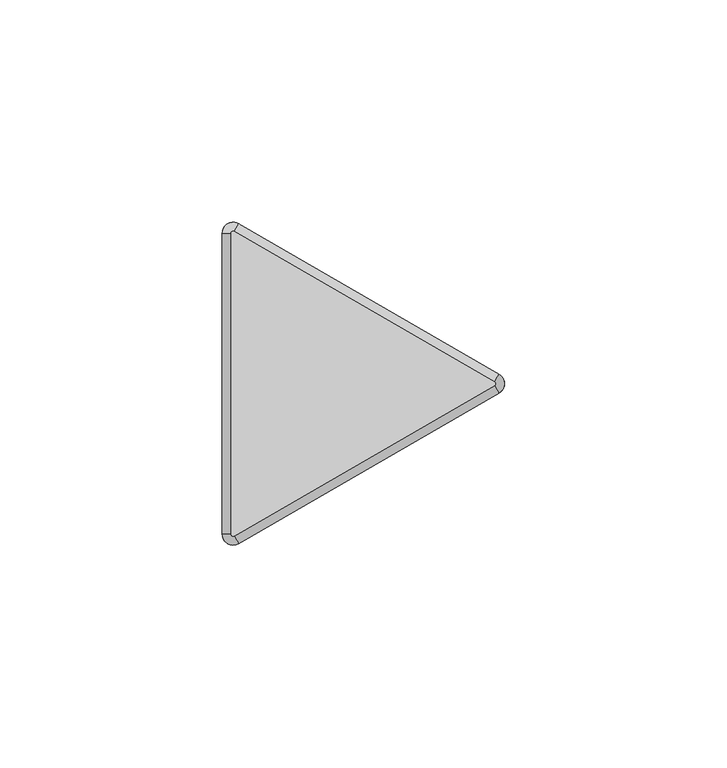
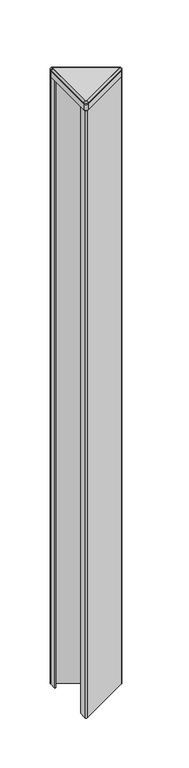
"""IFC4 building model written with IfcOpenShell, lengths in millimetres: furniture geometry, Steelcase - Answer Solution - Panel - 120deg Change-of-Height Trim - Thin : Y Corner - 30H for 72H App."""

import ifcopenshell
import ifcopenshell.guid

model = None  # the IFC model being written
_history = None  # IfcOwnerHistory: only IFC2X3 demands one
_inside = {}  # id of a spatial element -> (the spatial element, [elements in it])
_under = {}  # id of a project, library or spatial element -> (it, [spatial elements below it])
_declared = {}  # id of a project -> (the project, [libraries it declares])
_typed = {}  # id of a type object -> (the type object, [elements of that type])
_made_of = {}  # id of a material, layer set ... -> (it, [elements and type objects made of it])


def new_model(schema):
    """Start an empty IFC model of exactly this schema.

    Asked for "IFC4X3", IfcOpenShell would pick the latest addendum, in which some entities
    have other attributes; the version numbers below select the first issue.
    IFC2X3 requires an IfcOwnerHistory on every rooted entity: one is made here for all.
    """
    global model, _history
    if schema == "IFC4X3":
        model = ifcopenshell.file(schema_version=(4, 3, 0, 0))
    else:
        model = ifcopenshell.file(schema=schema)
    _inside.clear()
    _under.clear()
    _declared.clear()
    _typed.clear()
    _made_of.clear()
    _history = None
    if model.schema == "IFC2X3":
        org = make("IfcOrganization", Name="unknown")
        user = make(
            "IfcPersonAndOrganization",
            ThePerson=make("IfcPerson", FamilyName="unknown"),
            TheOrganization=org,
        )
        app = make(
            "IfcApplication",
            ApplicationDeveloper=org,
            Version="unknown",
            ApplicationFullName="unknown",
            ApplicationIdentifier="unknown",
        )
        _history = make(
            "IfcOwnerHistory",
            OwningUser=user,
            OwningApplication=app,
            ChangeAction="ADDED",
            CreationDate=0,
        )
    return model


def make(cls, **values):
    """One entity of the class cls with the attributes given. An attribute that is None is left unset."""
    return model.create_entity(
        cls, **{name: value for name, value in values.items() if value is not None}
    )


def rooted(cls, **values):
    """An entity with a GlobalId (a new one), such as an element, a storey or a relation."""
    return make(cls, GlobalId=ifcopenshell.guid.new(), OwnerHistory=_history, **values)


def si_unit(unit_type, name, prefix=None):
    """IfcSIUnit, for example si_unit("LENGTHUNIT", "METRE", prefix="MILLI")."""
    return make("IfcSIUnit", UnitType=unit_type, Prefix=prefix, Name=name)


def assignment(units):
    """IfcUnitAssignment: the units of a project."""
    return None if units is None else make("IfcUnitAssignment", Units=units)


def point(xyz):
    """IfcCartesianPoint."""
    return None if xyz is None else make("IfcCartesianPoint", Coordinates=xyz)


def direction(xyz):
    """IfcDirection."""
    return None if xyz is None else make("IfcDirection", DirectionRatios=xyz)


def frame(location, z_axis=None, x_axis=None):
    """IfcAxis2Placement3D, a coordinate frame: its origin and axes. An axis left out is left unset."""
    return make(
        "IfcAxis2Placement3D",
        Location=point(location),
        Axis=direction(z_axis),
        RefDirection=direction(x_axis),
    )


def frame_2d(location, x_axis=None):
    """IfcAxis2Placement2D, a coordinate frame in the plane: its origin and x axis."""
    return make(
        "IfcAxis2Placement2D", Location=point(location), RefDirection=direction(x_axis)
    )


def origin():
    """The frame at (0, 0, 0) with its axes left unset."""
    return frame((0.0, 0.0, 0.0))


def place(relative_to, where):
    """IfcLocalPlacement: puts the frame where relative to a parent placement (None: the world)."""
    return make(
        "IfcLocalPlacement", PlacementRelTo=relative_to, RelativePlacement=where
    )


def context(
    kind, dimensions, precision=None, world=None, true_north=None, identifier=None
):
    """IfcGeometricRepresentationContext, for example the 3D "Model" context."""
    return make(
        "IfcGeometricRepresentationContext",
        ContextIdentifier=identifier,
        ContextType=kind,
        CoordinateSpaceDimension=dimensions,
        Precision=precision,
        WorldCoordinateSystem=world,
        TrueNorth=true_north,
    )


def project(units=None, contexts=None):
    """IfcProject with its units and contexts."""
    return rooted(
        "IfcProject",
        Name="project",
        RepresentationContexts=contexts,
        UnitsInContext=assignment(units),
    )


def spatial(cls, under=None, at=None, **own):
    """A site, building, storey or space (cls), placed at a placement, below another one or the project."""
    s = rooted(cls, ObjectPlacement=at, **own)
    if under is not None:
        _under.setdefault(under.id(), (under, []))[1].append(s)
    return s


def polyline(points):
    """IfcPolyline through the points."""
    return make("IfcPolyline", Points=[point(p) for p in points])


def circle_curve(where, radius):
    """IfcCircle in the frame where."""
    return make("IfcCircle", Position=where, Radius=radius)


def ellipse_curve(where, semi_axis1, semi_axis2):
    """IfcEllipse in the frame where."""
    return make(
        "IfcEllipse", Position=where, SemiAxis1=semi_axis1, SemiAxis2=semi_axis2
    )


def trimmed(basis, trim1, trim2, sense, master):
    """IfcTrimmedCurve: the piece of a basis curve between two trims."""
    return make(
        "IfcTrimmedCurve",
        BasisCurve=basis,
        Trim1=trim1,
        Trim2=trim2,
        SenseAgreement=sense,
        MasterRepresentation=master,
    )


def segment(curve, same_sense, transition):
    """IfcCompositeCurveSegment."""
    return make(
        "IfcCompositeCurveSegment",
        Transition=transition,
        SameSense=same_sense,
        ParentCurve=curve,
    )


def composite_curve(segments, self_intersect=None):
    """IfcCompositeCurve: segments joined end to end."""
    return make("IfcCompositeCurve", Segments=segments, SelfIntersect=self_intersect)


def outline(outer, holes=None, kind="AREA"):
    """IfcArbitraryClosedProfileDef: a profile drawn as a closed curve; with holes, ...WithVoids."""
    if holes is None:
        return make("IfcArbitraryClosedProfileDef", ProfileType=kind, OuterCurve=outer)
    return make(
        "IfcArbitraryProfileDefWithVoids",
        ProfileType=kind,
        OuterCurve=outer,
        InnerCurves=holes,
    )


def extrude(swept, where, along, depth):
    """IfcExtrudedAreaSolid: the profile swept, set in the frame where, extruded along a direction by depth."""
    return make(
        "IfcExtrudedAreaSolid",
        SweptArea=swept,
        Position=where,
        ExtrudedDirection=direction(along),
        Depth=depth,
    )


def shape(context_of_items, identifier, shape_type, items):
    """IfcShapeRepresentation: the items that make up one representation, for example the "Body"."""
    return make(
        "IfcShapeRepresentation",
        ContextOfItems=context_of_items,
        RepresentationIdentifier=identifier,
        RepresentationType=shape_type,
        Items=items,
    )


def source(mapping_origin, context_of_items, identifier, shape_type, items):
    """IfcRepresentationMap: a shape defined once, which mapped items show again and again."""
    return make(
        "IfcRepresentationMap",
        MappingOrigin=mapping_origin,
        MappedRepresentation=shape(context_of_items, identifier, shape_type, items),
    )


def transform(
    local_origin,
    x_axis=None,
    y_axis=None,
    z_axis=None,
    scale=None,
    scale2=None,
    scale3=None,
    uniform=True,
):
    """IfcCartesianTransformationOperator3D, or its non-uniform kind. x_axis, y_axis, z_axis: its Axis1, 2, 3."""
    if uniform:
        return make(
            "IfcCartesianTransformationOperator3D",
            Axis1=direction(x_axis),
            Axis2=direction(y_axis),
            LocalOrigin=point(local_origin),
            Scale=scale,
            Axis3=direction(z_axis),
        )
    return make(
        "IfcCartesianTransformationOperator3DnonUniform",
        Axis1=direction(x_axis),
        Axis2=direction(y_axis),
        LocalOrigin=point(local_origin),
        Scale=scale,
        Axis3=direction(z_axis),
        Scale2=scale2,
        Scale3=scale3,
    )


def mapped(mapping_source, mapping_target):
    """IfcMappedItem: shows the shape of a source again, moved by a transform."""
    return make(
        "IfcMappedItem", MappingSource=mapping_source, MappingTarget=mapping_target
    )


def made_of(thing, what):
    """Note that an element or type object is made of a material, layer set ...; save() writes the relation."""
    if what is not None:
        _made_of.setdefault(what.id(), (what, []))[1].append(thing)
    return thing


def element(
    cls,
    number,
    at=None,
    inside=None,
    cuts=None,
    type_object=None,
    material=None,
    context=None,
    identifier="Body",
    shape_type=None,
    held_by="IfcProductDefinitionShape",
    body=None,
    shapes=None,
    **own,
):
    """One element of the class cls, such as IfcWall. Its Tag is "e" and its number.

    at: its placement. inside: the storey or other place that contains it. cuts: it is an
    opening in that element (IfcRelVoidsElement). A single representation is given by context,
    identifier, shape_type and body (its items); several are given by shapes. held_by: the class
    of the entity that holds the representations. save() writes the other relations.
    """
    e = rooted(cls, Tag="e%d" % number, ObjectPlacement=at, **own)
    if body is not None:
        shapes = [shape(context, identifier, shape_type, body)]
    if shapes is not None:
        e.Representation = make(held_by, Representations=shapes)
    if inside is not None:
        _inside.setdefault(inside.id(), (inside, []))[1].append(e)
    if cuts is not None:
        rooted(
            "IfcRelVoidsElement", RelatingBuildingElement=cuts, RelatedOpeningElement=e
        )
    if type_object is not None:
        _typed.setdefault(type_object.id(), (type_object, []))[1].append(e)
    return made_of(e, material)


def aggregate(whole, parts):
    """IfcRelAggregates: a whole, such as a stair, and the parts it consists of."""
    return rooted("IfcRelAggregates", RelatingObject=whole, RelatedObjects=parts)


def save(model, path):
    """Write the relations noted so far, then the file.

    IfcRelAggregates (storeys below a building ...), IfcRelContainedInSpatialStructure (elements
    in a storey), IfcRelDefinesByType, IfcRelAssociatesMaterial and IfcRelDeclares: one each for
    every whole, place, type object, material and project.
    """
    for whole, parts in _under.values():
        aggregate(whole, parts)
    for where, things in _inside.values():
        rooted(
            "IfcRelContainedInSpatialStructure",
            RelatedElements=things,
            RelatingStructure=where,
        )
    for kind, things in _typed.values():
        rooted("IfcRelDefinesByType", RelatedObjects=things, RelatingType=kind)
    for what, things in _made_of.values():
        rooted("IfcRelAssociatesMaterial", RelatedObjects=things, RelatingMaterial=what)
    for by, libraries in _declared.values():
        rooted("IfcRelDeclares", RelatingContext=by, RelatedDefinitions=libraries)
    model.write(path)


def plane_surface(at):
    """IfcPlane: the flat surface through the origin of the frame at, square to its z axis."""
    return make("IfcPlane", Position=at)


def cylinder_surface(at, radius):
    """IfcCylindricalSurface: all points at the distance radius from the z axis of the frame at."""
    return make("IfcCylindricalSurface", Position=at, Radius=radius)


def revolved_surface(curve, axis_point, axis_direction):
    """IfcSurfaceOfRevolution: the curve turned about the line through axis_point along axis_direction."""
    return make(
        "IfcSurfaceOfRevolution",
        SweptCurve=make("IfcArbitraryOpenProfileDef", ProfileType="CURVE", Curve=curve),
        AxisPosition=make("IfcAxis1Placement", Location=point(axis_point), Axis=direction(axis_direction)),
    )


def advanced_brep(points, edges, surfaces, faces):
    """IfcAdvancedBrep: a solid bounded by faces that lie on surfaces and meet in shared edges.

    An edge is (start, end): straight between two places in points (the first is 0);
    or (start, end, curve); or (start, end, curve, False) where it runs against its curve.
    A face is (place in surfaces, loops), or (place, loops, False) where it looks against
    its surface's normal. A loop lists edges by number (the first is 1), with a minus sign
    where the edge is run from its end to its start. The first loop is the outer one.
    """
    corners = [point(p) for p in points]
    vertices = [make("IfcVertexPoint", VertexGeometry=c) for c in corners]
    made = []
    for start, end, *more in edges:
        made.append(
            make(
                "IfcEdgeCurve",
                EdgeStart=vertices[start],
                EdgeEnd=vertices[end],
                EdgeGeometry=more[0] if more else make("IfcPolyline", Points=[corners[start], corners[end]]),
                SameSense=more[1] if len(more) > 1 else True,
            )
        )
    hull = []
    for where, loops, *sense in faces:
        bounds = []
        for j, loop in enumerate(loops):
            ring = [make("IfcOrientedEdge", EdgeElement=made[abs(k) - 1], Orientation=k > 0) for k in loop]
            bounds.append(
                make(
                    "IfcFaceOuterBound" if j == 0 else "IfcFaceBound",
                    Bound=make("IfcEdgeLoop", EdgeList=ring),
                    Orientation=True,
                )
            )
        hull.append(make("IfcAdvancedFace", Bounds=bounds, FaceSurface=surfaces[where], SameSense=sense[0] if sense else True))
    return make("IfcAdvancedBrep", Outer=make("IfcClosedShell", CfsFaces=hull))


def furniture_a1d1e653(model_context):
    return source(origin(), model_context, "Body", "SolidModel", [
        advanced_brep(
        [(-10.518645, -37.3335529, 1833.2628978), (-14.2052101, -35.2051135, 1833.2628978), (-14.2052101, -35.2051135, 1832.3164663), (-10.518645, -37.3335529, 1832.3164663), (-11.46175, -35.7000471, 1835.15), (-12.319, -35.2051135, 1835.15), (-11.46175, -35.7000471, 1832.3164663), (-12.319, -35.2051135, 1832.3164663), (48.0429908, -3.5229767, 1832.3164663), (48.0429908, -3.5229767, 1833.2628978), (47.0998858, -1.8894709, 1835.15), (47.0998858, -1.8894709, 1832.3164663), (48.0429908, 0.733902, 1833.2628978), (48.0429908, 0.733902, 1832.3164663), (47.0998858, -0.8996038, 1835.15), (47.0998858, -0.8996038, 1832.3164663), (-10.518645, 34.5444782, 1832.3164663), (-14.2052101, 32.4160388, 1832.3164663), (-11.46175, 32.9109723, 1832.3164663), (-12.319, 32.4160388, 1832.3164663), (-10.518645, 34.5444782, 1833.2628978), (-11.46175, 32.9109723, 1835.15), (-14.2052101, 32.4160388, 1833.2628978), (-12.319, 32.4160388, 1835.15)],
        [
            (0, 1, circle_curve(frame((-11.7475, -35.2051135, 1833.2628978), z_axis=(0.0, 0.0, -1.0), x_axis=(-1.0, 0.0, 0.0)), 2.4577101)),
            (1, 2),
            (2, 3, circle_curve(frame((-11.7475, -35.2051135, 1832.3164663), z_axis=(0.0, 0.0, 1.0), x_axis=(-1.0, 0.0, 0.0)), 2.4577101)),
            (3, 0),
            (4, 5, circle_curve(frame((-11.7475, -35.2051135, 1835.15), z_axis=(0.0, 0.0, -1.0), x_axis=(-1.0, 0.0, 0.0)), 0.5715)),
            (5, 1, circle_curve(frame((-12.3181076, -35.2051135, 1833.2628978), z_axis=(0.0, -1.0, 0.0), x_axis=(1.0, 0.0, 0.0)), 1.8871024)),
            (0, 4, circle_curve(frame((-11.4621962, -35.6992743, 1833.2628978), z_axis=(-0.8660254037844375, -0.5000000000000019, 0.0), x_axis=(-0.5000000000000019, 0.8660254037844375, 0.0)), 1.8871024)),
            (6, 7, circle_curve(frame((-11.7475, -35.2051135, 1832.3164663), z_axis=(0.0, 0.0, -1.0), x_axis=(-1.0, 0.0, 0.0)), 0.5715)),
            (7, 5),
            (4, 6),
            (3, 8),
            (8, 9),
            (9, 0),
            (9, 10, circle_curve(frame((47.0994396, -1.8886981, 1833.2628978), z_axis=(-0.8660254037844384, -0.5000000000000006, 0.0), x_axis=(-0.5000000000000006, 0.8660254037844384, 0.0)), 1.8871024)),
            (10, 4),
            (10, 11),
            (11, 6),
            (12, 9, circle_curve(frame((46.8141358, -1.3945374, 1833.2628978), z_axis=(0.0, 0.0, -1.0), x_axis=(0.4999999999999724, -0.8660254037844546, 0.0)), 2.4577101)),
            (8, 13, circle_curve(frame((46.8141358, -1.3945374, 1832.3164663), z_axis=(0.0, 0.0, 1.0), x_axis=(0.4999999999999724, -0.8660254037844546, 0.0)), 2.4577101)),
            (13, 12),
            (14, 10, circle_curve(frame((46.8141358, -1.3945374, 1835.15), z_axis=(0.0, 0.0, -1.0), x_axis=(0.4999999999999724, -0.8660254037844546, 0.0)), 0.5715)),
            (12, 14, circle_curve(frame((47.0994396, -0.9003766, 1833.2628978), z_axis=(0.866025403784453, -0.499999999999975, 0.0), x_axis=(-0.499999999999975, -0.866025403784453, 0.0)), 1.8871024)),
            (15, 11, circle_curve(frame((46.8141358, -1.3945374, 1832.3164663), z_axis=(0.0, 0.0, -1.0), x_axis=(0.4999999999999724, -0.8660254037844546, 0.0)), 0.5715)),
            (14, 15),
            (16, 13),
            (2, 17),
            (17, 16, circle_curve(frame((-11.7475, 32.4160388, 1832.3164663), z_axis=(0.0, 0.0, -1.0), x_axis=(0.500000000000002, 0.8660254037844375, 0.0)), 2.4577101)),
            (15, 18),
            (18, 19, circle_curve(frame((-11.7475, 32.4160388, 1832.3164663), z_axis=(0.0, 0.0, 1.0), x_axis=(0.500000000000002, 0.8660254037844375, 0.0)), 0.5715)),
            (19, 7),
            (16, 20),
            (20, 12),
            (20, 21, circle_curve(frame((-11.4621962, 32.9101995, 1833.2628978), z_axis=(0.8660254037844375, -0.5000000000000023, 0.0), x_axis=(-0.5000000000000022, -0.8660254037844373, 0.0)), 1.8871024)),
            (21, 14),
            (21, 18),
            (22, 20, circle_curve(frame((-11.7475, 32.4160388, 1833.2628978), z_axis=(0.0, 0.0, -1.0), x_axis=(0.500000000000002, 0.8660254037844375, 0.0)), 2.4577101)),
            (17, 22),
            (23, 21, circle_curve(frame((-11.7475, 32.4160388, 1835.15), z_axis=(0.0, 0.0, -1.0), x_axis=(0.500000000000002, 0.8660254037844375, 0.0)), 0.5715)),
            (22, 23, circle_curve(frame((-12.3181076, 32.4160388, 1833.2628978), z_axis=(0.0, 1.0, 0.0), x_axis=(1.0, 0.0, 0.0)), 1.8871024)),
            (23, 19),
            (1, 22),
            (5, 23),
        ],
        [
            cylinder_surface(frame((-11.7475, -35.2051135, 0.0), z_axis=(0.0, 0.0, 1.0), x_axis=(-1.0, 0.0, 0.0)), 2.4577101),
            revolved_surface(trimmed(ellipse_curve(frame((-12.3181076, -35.2051135, 1833.2628978), z_axis=(0.0, 1.0, 0.0), x_axis=(1.0, 0.0, 0.0)), 1.8871024, 1.8871024), [point((-14.2052101, -35.2051135, 1833.2628978))], [point((-12.319, -35.2051135, 1835.15))], True, "CARTESIAN"), (-11.7475, -35.2051135, 0.0), (0.0, 0.0, 1.0)),
            revolved_surface(polyline([(-12.319, -35.2051135, 1835.15), (-12.319, -35.2051135, 1832.3164663)]), (-11.7475, -35.2051135, 0.0), (0.0, 0.0, 1.0)),
            plane_surface(frame((-10.518645, -37.3335529, 1832.3164663), z_axis=(0.5000000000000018, -0.8660254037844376, 0.0), x_axis=(0.8660254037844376, 0.5000000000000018, 0.0))),
            cylinder_surface(frame((-11.4621962, -35.6992743, 1833.2628978), z_axis=(-0.8660254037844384, -0.5000000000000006, 0.0), x_axis=(-0.5000000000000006, 0.8660254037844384, 0.0)), 1.8871024),
            plane_surface(frame((-11.46175, -35.7000471, 1835.15), z_axis=(-0.49999999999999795, 0.8660254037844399, 0.0), x_axis=(0.8660254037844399, 0.49999999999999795, 0.0))),
            cylinder_surface(frame((46.8141358, -1.3945374, 0.0), z_axis=(0.0, 0.0, 1.0), x_axis=(0.4999999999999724, -0.8660254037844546, 0.0)), 2.4577101),
            revolved_surface(trimmed(ellipse_curve(frame((47.0994396, -1.8886981, 1833.2628978), z_axis=(-0.8660254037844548, -0.499999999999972, 0.0), x_axis=(-0.499999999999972, 0.8660254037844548, 0.0)), 1.8871024, 1.8871024), [point((48.0429908, -3.5229767, 1833.2628978))], [point((47.0998858, -1.8894709, 1835.15))], True, "CARTESIAN"), (46.8141358, -1.3945374, 0.0), (0.0, 0.0, 1.0)),
            revolved_surface(polyline([(47.09988579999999, -1.8894709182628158, 1835.15), (47.09988579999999, -1.8894709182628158, 1832.3164663)]), (46.8141358, -1.3945374, 0.0), (0.0, 0.0, 1.0)),
            plane_surface(frame((47.0998858, -0.8996038, 1832.3164663), z_axis=(0.0, 0.0, -1.0000000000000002), x_axis=(-0.8660254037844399, 0.49999999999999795, 0.0))),
            plane_surface(frame((48.0429908, 0.733902, 1832.3164663), z_axis=(0.49999999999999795, 0.8660254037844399, 0.0), x_axis=(-0.8660254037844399, 0.49999999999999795, 0.0))),
            cylinder_surface(frame((47.0994396, -0.9003766, 1833.2628978), z_axis=(0.8660254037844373, -0.5000000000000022, 0.0), x_axis=(-0.5000000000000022, -0.8660254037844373, 0.0)), 1.8871024),
            plane_surface(frame((47.0998858, -0.8996038, 1835.15), z_axis=(-0.49999999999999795, -0.8660254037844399, 0.0), x_axis=(-0.8660254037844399, 0.49999999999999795, 0.0))),
            cylinder_surface(frame((-11.7475, 32.4160388, 0.0), z_axis=(0.0, 0.0, 1.0), x_axis=(0.500000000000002, 0.8660254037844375, 0.0)), 2.4577101),
            revolved_surface(trimmed(ellipse_curve(frame((-11.4621962, 32.9101995, 1833.2628978), z_axis=(0.866025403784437, -0.5000000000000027, 0.0), x_axis=(-0.5000000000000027, -0.866025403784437, 0.0)), 1.8871024, 1.8871024), [point((-10.518645, 34.5444782, 1833.2628978))], [point((-11.46175, 32.9109723, 1835.15))], True, "CARTESIAN"), (-11.7475, 32.4160388, 0.0), (0.0, 0.0, 1.0)),
            revolved_surface(polyline([(-11.461749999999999, 32.91097231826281, 1835.15), (-11.461749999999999, 32.91097231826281, 1832.3164663)]), (-11.7475, 32.4160388, 0.0), (0.0, 0.0, 1.0)),
            plane_surface(frame((-14.2052101, 32.4160388, 1832.3164663), z_axis=(-1.0, 0.0, 0.0), x_axis=(0.0, -1.0, 0.0))),
            cylinder_surface(frame((-12.3181076, 32.4160388, 1833.2628978), z_axis=(0.0, 1.0, 0.0), x_axis=(1.0, 0.0, 0.0)), 1.8871024),
            plane_surface(frame((-12.319, 32.4160388, 1835.15), z_axis=(1.0, 0.0, 0.0), x_axis=(0.0, -1.0, 0.0))),
        ],
        [
            (0, [[1, 2, 3, 4]]),
            (1, [[5, 6, -1, 7]]),
            (2, [[8, 9, -5, 10]]),
            (3, [[-4, 11, 12, 13]]),
            (4, [[-7, -13, 14, 15]]),
            (5, [[-10, -15, 16, 17]]),
            (6, [[18, -12, 19, 20]]),
            (7, [[21, -14, -18, 22]]),
            (8, [[23, -16, -21, 24]]),
            (9, [[25, -19, -11, -3, 26, 27], [-8, -17, -23, 28, 29, 30]]),
            (10, [[-20, -25, 31, 32]]),
            (11, [[-22, -32, 33, 34]]),
            (12, [[-24, -34, 35, -28]]),
            (13, [[36, -31, -27, 37]]),
            (14, [[38, -33, -36, 39]]),
            (15, [[-29, -35, -38, 40]]),
            (16, [[-37, -26, -2, 41]]),
            (17, [[-39, -41, -6, 42]]),
            (18, [[-40, -42, -9, -30]]),
        ],
    ),
        extrude(outline(composite_curve([segment(trimmed(circle_curve(frame_2d((47.9522001, -1.3945374)), 1.2978651), [point((48.6011327, -0.2705532))], [point((48.6011327, -2.5185215))], False, "CARTESIAN"), True, "CONTINUOUS"), segment(polyline([(48.6011327, -2.5185215), (-11.6879343, -37.3264306)]), True, "CONTINUOUS"), segment(trimmed(circle_curve(frame_2d((-12.3300896, -36.2141852)), 1.2843104), [point((-11.6879343, -37.3264306))], [point((-13.6144, -36.2141852))], False, "CARTESIAN"), True, "CONTINUOUS"), segment(polyline([(-13.6144, -36.2141852), (-13.6144, -27.3303775), (-12.7, -27.3303775), (-12.7, -36.8548888), (48.7191304, -1.3945374), (-12.7, 34.0658141), (-12.7, 24.5413027), (-13.6144, 24.5413027), (-13.6144, 33.4106259)]), True, "CONTINUOUS"), segment(trimmed(circle_curve(frame_2d((-12.3217269, 33.4106259)), 1.2926731), [point((-13.6144, 33.4106259))], [point((-11.6753904, 34.5301136))], False, "CARTESIAN"), True, "CONTINUOUS"), segment(polyline([(-11.6753904, 34.5301136), (48.6011327, -0.2705532)]), True, "CONTINUOUS")], self_intersect=False)), frame((0.0, 0.0, 1073.15), z_axis=(0.0, 0.0, 1.0), x_axis=(1.0, 0.0, 0.0)), (0.0, 0.0, 1.0), 751.84),
        extrude(outline(composite_curve([segment(trimmed(circle_curve(frame_2d((46.8261011, -1.3945374)), 0.5655173), [point((47.1088598, -0.904785))], [point((47.1088598, -1.8842897))], False, "CARTESIAN"), True, "CONTINUOUS"), segment(polyline([(47.1088598, -1.8842897), (-11.4505119, -35.6935587)]), True, "CONTINUOUS"), segment(trimmed(circle_curve(frame_2d((-11.7400079, -35.1921369)), 0.5789921), [point((-11.4505119, -35.6935587))], [point((-12.319, -35.1921369))], False, "CARTESIAN"), True, "CONTINUOUS"), segment(polyline([(-12.319, -35.1921369), (-12.319, 32.3985888)]), True, "CONTINUOUS"), segment(trimmed(circle_curve(frame_2d((-11.7374252, 32.3985888)), 0.5815748), [point((-12.319, 32.3985888))], [point((-11.4466378, 32.9022473))], False, "CARTESIAN"), True, "CONTINUOUS"), segment(polyline([(-11.4466378, 32.9022473), (47.1088598, -0.904785)]), True, "CONTINUOUS")], self_intersect=False)), frame((0.0, 0.0, 1832.3164663), z_axis=(0.0, 0.0, 1.0), x_axis=(1.0, 0.0, 0.0)), (0.0, 0.0, 1.0), 2.8335337),
        extrude(outline(composite_curve([segment(trimmed(circle_curve(frame_2d((46.8140443, -1.3945374)), 2.4577558), [point((48.0429222, 0.7339416))], [point((48.0429222, -3.5230163))], False, "CARTESIAN"), True, "CONTINUOUS"), segment(polyline([(48.0429222, -3.5230163), (-10.518058, -37.333214)]), True, "CONTINUOUS"), segment(trimmed(circle_curve(frame_2d((-11.7471087, -35.2044357)), 2.4581014), [point((-10.518058, -37.333214))], [point((-14.2052101, -35.2044357))], False, "CARTESIAN"), True, "CONTINUOUS"), segment(polyline([(-14.2052101, -35.2044357), (-14.2052101, 32.4160388)]), True, "CONTINUOUS"), segment(trimmed(circle_curve(frame_2d((-11.7475, 32.4160388)), 2.4577101), [point((-14.2052101, 32.4160388))], [point((-10.518645, 34.5444782))], False, "CARTESIAN"), True, "CONTINUOUS"), segment(polyline([(-10.518645, 34.5444782), (48.0429222, 0.7339416)]), True, "CONTINUOUS")], self_intersect=False)), frame((0.0, 0.0, 1824.99), z_axis=(0.0, 0.0, 1.0), x_axis=(1.0, 0.0, 0.0)), (0.0, 0.0, 1.0), 7.3264663),
    ])


if __name__ == "__main__":
    model = new_model("IFC4")
    model_context = context("Model", 3, world=origin())
    ifc_project = project(units=[si_unit("LENGTHUNIT", "METRE", prefix="MILLI")], contexts=[model_context])
    site = spatial("IfcSite", under=ifc_project)
    building = spatial("IfcBuilding", under=site)
    placement = place(None, origin())
    furniture_shape = furniture_a1d1e653(model_context)
    element("IfcFurniture", 1, ObjectType="Steelcase - Answer Solution - Panel - 120deg Change-of-Height Trim - Thin : Y Corner - 30H for 72H App", at=placement, inside=building, context=model_context, shape_type="MappedRepresentation", body=[
        mapped(furniture_shape, transform((0.0, 0.0, 0.0), x_axis=(1.0, 0.0, 0.0), y_axis=(0.0, 1.0, 0.0), z_axis=(0.0, 0.0, 1.0))),
    ])
    save(model, "model.ifc")
